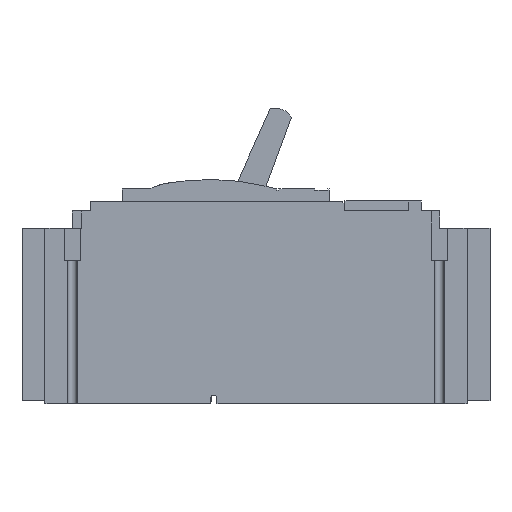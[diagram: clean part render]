
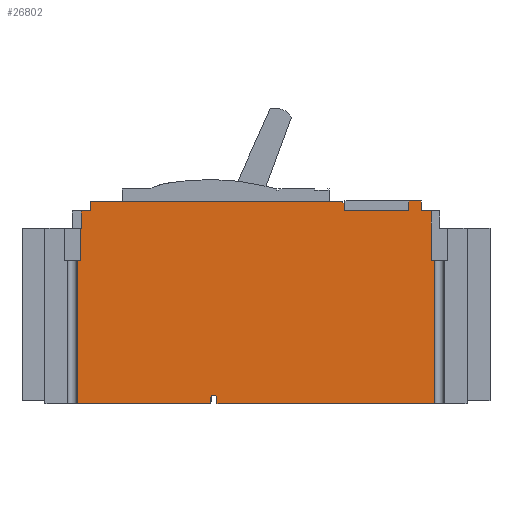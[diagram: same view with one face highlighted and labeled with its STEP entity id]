
A CAD part, left-side view. The second image highlights one B-rep face of the part: STEP entity #26802.
In plain terms, the highlighted planar face has unit normal (-1, 0, 0).
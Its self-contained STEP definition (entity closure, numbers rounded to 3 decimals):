
#136=DIRECTION('',(0.,-1.,0.));
#137=VECTOR('',#136,35.293);
#138=CARTESIAN_POINT('',(0.,79.5,105.115));
#139=LINE('',#138,#137);
#143=DIRECTION('',(0.,0.,-1.));
#144=VECTOR('',#143,5.4);
#145=CARTESIAN_POINT('',(0.,44.207,110.515));
#146=LINE('',#145,#144);
#150=DIRECTION('',(0.,1.,0.));
#151=VECTOR('',#150,6.7);
#152=CARTESIAN_POINT('',(0.,37.507,110.515));
#153=LINE('',#152,#151);
#157=DIRECTION('',(0.,0.,1.));
#158=VECTOR('',#157,5.4);
#159=CARTESIAN_POINT('',(0.,37.507,105.115));
#160=LINE('',#159,#158);
#164=DIRECTION('',(0.,-1.,0.));
#165=VECTOR('',#164,5.5);
#166=CARTESIAN_POINT('',(0.,37.507,105.115));
#167=LINE('',#166,#165);
#171=DIRECTION('',(0.,0.,-1.));
#172=VECTOR('',#171,27.);
#173=CARTESIAN_POINT('',(0.,32.007,105.115));
#174=LINE('',#173,#172);
#178=DIRECTION('',(0.,-1.,0.));
#179=VECTOR('',#178,1.962);
#180=CARTESIAN_POINT('',(0.,32.007,78.115));
#181=LINE('',#180,#179);
#185=DIRECTION('',(0.,0.,-1.));
#186=VECTOR('',#185,78.05);
#187=CARTESIAN_POINT('',(0.,30.046,78.115));
#188=LINE('',#187,#186);
#192=DIRECTION('',(0.,1.,0.));
#193=VECTOR('',#192,118.704);
#194=CARTESIAN_POINT('',(0.,30.046,0.065));
#195=LINE('',#194,#193);
#199=DIRECTION('',(0.,0.,1.));
#200=VECTOR('',#199,2.918);
#201=CARTESIAN_POINT('',(0.,148.75,0.065));
#202=LINE('',#201,#200);
#206=DIRECTION('',(0.,0.,1.));
#207=VECTOR('',#206,2.918);
#208=CARTESIAN_POINT('',(0.,152.25,0.065));
#209=LINE('',#208,#207);
#213=DIRECTION('',(0.,1.,0.));
#214=VECTOR('',#213,72.704);
#215=CARTESIAN_POINT('',(0.,152.25,0.065));
#216=LINE('',#215,#214);
#220=DIRECTION('',(0.,0.,1.));
#221=VECTOR('',#220,78.);
#222=CARTESIAN_POINT('',(0.,224.954,0.065));
#223=LINE('',#222,#221);
#227=DIRECTION('',(0.,-1.,0.));
#228=VECTOR('',#227,1.954);
#229=CARTESIAN_POINT('',(0.,224.954,78.065));
#230=LINE('',#229,#228);
#234=DIRECTION('',(0.,0.,1.));
#235=VECTOR('',#234,17.5);
#236=CARTESIAN_POINT('',(0.,223.,78.065));
#237=LINE('',#236,#235);
#241=DIRECTION('',(0.,-1.,0.));
#242=VECTOR('',#241,0.25);
#243=CARTESIAN_POINT('',(0.,223.,95.565));
#244=LINE('',#243,#242);
#248=DIRECTION('',(0.,0.,-1.));
#249=VECTOR('',#248,9.5);
#250=CARTESIAN_POINT('',(0.,222.75,105.065));
#251=LINE('',#250,#249);
#255=DIRECTION('',(0.,-1.,0.));
#256=VECTOR('',#255,5.25);
#257=CARTESIAN_POINT('',(0.,222.75,105.065));
#258=LINE('',#257,#256);
#262=DIRECTION('',(0.,0.,1.));
#263=VECTOR('',#262,5.);
#264=CARTESIAN_POINT('',(0.,217.5,105.065));
#265=LINE('',#264,#263);
#269=DIRECTION('',(0.,-1.,0.));
#270=VECTOR('',#269,137.4);
#271=CARTESIAN_POINT('',(0.,217.5,110.065));
#272=LINE('',#271,#270);
#276=DIRECTION('',(0.,0.,-1.));
#277=VECTOR('',#276,0.6);
#278=CARTESIAN_POINT('',(0.,80.1,110.065));
#279=LINE('',#278,#277);
#283=DIRECTION('',(0.,-1.,0.));
#284=VECTOR('',#283,0.6);
#285=CARTESIAN_POINT('',(0.,80.1,109.465));
#286=LINE('',#285,#284);
#290=DIRECTION('',(0.,0.,-1.));
#291=VECTOR('',#290,4.35);
#292=CARTESIAN_POINT('',(0.,79.5,109.465));
#293=LINE('',#292,#291);
#5440=CARTESIAN_POINT('',(0.,150.5,2.983));
#5441=DIRECTION('',(1.,0.,0.));
#5442=DIRECTION('',(0.,1.,0.));
#5443=AXIS2_PLACEMENT_3D('',#5440,#5441,#5442);
#22589=CARTESIAN_POINT('',(0.,217.5,105.065));
#22590=CARTESIAN_POINT('',(0.,217.5,110.065));
#22591=VERTEX_POINT('',#22589);
#22592=VERTEX_POINT('',#22590);
#22593=CARTESIAN_POINT('',(0.,80.1,110.065));
#22594=VERTEX_POINT('',#22593);
#22595=CARTESIAN_POINT('',(0.,80.1,109.465));
#22596=VERTEX_POINT('',#22595);
#22597=CARTESIAN_POINT('',(0.,79.5,109.465));
#22598=VERTEX_POINT('',#22597);
#22599=CARTESIAN_POINT('',(0.,79.5,105.115));
#22600=VERTEX_POINT('',#22599);
#23490=CARTESIAN_POINT('',(0.,224.954,0.065));
#23491=VERTEX_POINT('',#23490);
#23522=CARTESIAN_POINT('',(0.,30.046,0.065));
#23523=VERTEX_POINT('',#23522);
#23538=CARTESIAN_POINT('',(0.,224.954,78.065));
#23539=CARTESIAN_POINT('',(0.,223.,78.065));
#23540=VERTEX_POINT('',#23538);
#23541=VERTEX_POINT('',#23539);
#23544=CARTESIAN_POINT('',(0.,32.007,78.115));
#23545=CARTESIAN_POINT('',(0.,30.046,78.115));
#23546=VERTEX_POINT('',#23544);
#23547=VERTEX_POINT('',#23545);
#23554=CARTESIAN_POINT('',(0.,32.007,105.115));
#23555=VERTEX_POINT('',#23554);
#23566=CARTESIAN_POINT('',(0.,222.75,105.065));
#23567=CARTESIAN_POINT('',(0.,222.75,95.565));
#23568=VERTEX_POINT('',#23566);
#23569=VERTEX_POINT('',#23567);
#23570=CARTESIAN_POINT('',(0.,223.,95.565));
#23571=VERTEX_POINT('',#23570);
#25444=CARTESIAN_POINT('',(0.,152.25,2.983));
#25446=VERTEX_POINT('',#25444);
#25448=CARTESIAN_POINT('',(0.,148.75,2.983));
#25450=VERTEX_POINT('',#25448);
#25452=CARTESIAN_POINT('',(0.,148.75,0.065));
#25453=VERTEX_POINT('',#25452);
#25454=CARTESIAN_POINT('',(0.,152.25,0.065));
#25455=VERTEX_POINT('',#25454);
#25460=CARTESIAN_POINT('',(0.,37.507,110.515));
#25461=CARTESIAN_POINT('',(0.,44.207,110.515));
#25462=VERTEX_POINT('',#25460);
#25463=VERTEX_POINT('',#25461);
#25464=CARTESIAN_POINT('',(0.,44.207,105.115));
#25465=VERTEX_POINT('',#25464);
#25466=CARTESIAN_POINT('',(0.,37.507,105.115));
#25467=VERTEX_POINT('',#25466);
#26747=CARTESIAN_POINT('',(0.,0.,0.));
#26748=DIRECTION('',(1.,0.,0.));
#26749=DIRECTION('',(0.,0.,-1.));
#26750=AXIS2_PLACEMENT_3D('',#26747,#26748,#26749);
#26751=PLANE('',#26750);
#26753=ORIENTED_EDGE('',*,*,#26752,.T.);
#26755=ORIENTED_EDGE('',*,*,#26754,.F.);
#26757=ORIENTED_EDGE('',*,*,#26756,.F.);
#26759=ORIENTED_EDGE('',*,*,#26758,.F.);
#26761=ORIENTED_EDGE('',*,*,#26760,.T.);
#26763=ORIENTED_EDGE('',*,*,#26762,.T.);
#26765=ORIENTED_EDGE('',*,*,#26764,.T.);
#26767=ORIENTED_EDGE('',*,*,#26766,.T.);
#26769=ORIENTED_EDGE('',*,*,#26768,.T.);
#26771=ORIENTED_EDGE('',*,*,#26770,.T.);
#26773=ORIENTED_EDGE('',*,*,#26772,.F.);
#26775=ORIENTED_EDGE('',*,*,#26774,.F.);
#26777=ORIENTED_EDGE('',*,*,#26776,.T.);
#26779=ORIENTED_EDGE('',*,*,#26778,.T.);
#26781=ORIENTED_EDGE('',*,*,#26780,.T.);
#26783=ORIENTED_EDGE('',*,*,#26782,.T.);
#26785=ORIENTED_EDGE('',*,*,#26784,.T.);
#26787=ORIENTED_EDGE('',*,*,#26786,.F.);
#26789=ORIENTED_EDGE('',*,*,#26788,.T.);
#26791=ORIENTED_EDGE('',*,*,#26790,.T.);
#26793=ORIENTED_EDGE('',*,*,#26792,.T.);
#26795=ORIENTED_EDGE('',*,*,#26794,.T.);
#26797=ORIENTED_EDGE('',*,*,#26796,.T.);
#26799=ORIENTED_EDGE('',*,*,#26798,.T.);
#26800=EDGE_LOOP('',(#26753,#26755,#26757,#26759,#26761,#26763,#26765,#26767,
#26769,#26771,#26773,#26775,#26777,#26779,#26781,#26783,#26785,#26787,#26789,
#26791,#26793,#26795,#26797,#26799));
#26801=FACE_OUTER_BOUND('',#26800,.F.);
#5444=CIRCLE('',#5443,1.75);
#26752=EDGE_CURVE('',#22600,#25465,#139,.T.);
#26754=EDGE_CURVE('',#25463,#25465,#146,.T.);
#26756=EDGE_CURVE('',#25462,#25463,#153,.T.);
#26758=EDGE_CURVE('',#25467,#25462,#160,.T.);
#26760=EDGE_CURVE('',#25467,#23555,#167,.T.);
#26762=EDGE_CURVE('',#23555,#23546,#174,.T.);
#26764=EDGE_CURVE('',#23546,#23547,#181,.T.);
#26766=EDGE_CURVE('',#23547,#23523,#188,.T.);
#26768=EDGE_CURVE('',#23523,#25453,#195,.T.);
#26770=EDGE_CURVE('',#25453,#25450,#202,.T.);
#26772=EDGE_CURVE('',#25446,#25450,#5444,.T.);
#26774=EDGE_CURVE('',#25455,#25446,#209,.T.);
#26776=EDGE_CURVE('',#25455,#23491,#216,.T.);
#26778=EDGE_CURVE('',#23491,#23540,#223,.T.);
#26780=EDGE_CURVE('',#23540,#23541,#230,.T.);
#26782=EDGE_CURVE('',#23541,#23571,#237,.T.);
#26784=EDGE_CURVE('',#23571,#23569,#244,.T.);
#26786=EDGE_CURVE('',#23568,#23569,#251,.T.);
#26788=EDGE_CURVE('',#23568,#22591,#258,.T.);
#26790=EDGE_CURVE('',#22591,#22592,#265,.T.);
#26792=EDGE_CURVE('',#22592,#22594,#272,.T.);
#26794=EDGE_CURVE('',#22594,#22596,#279,.T.);
#26796=EDGE_CURVE('',#22596,#22598,#286,.T.);
#26798=EDGE_CURVE('',#22598,#22600,#293,.T.);
#26802=ADVANCED_FACE('',(#26801),#26751,.F.);
